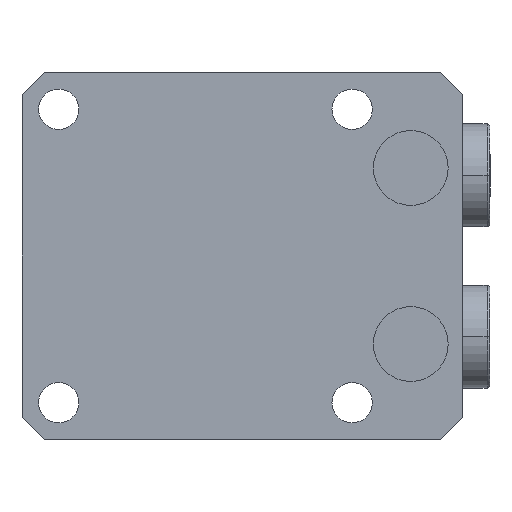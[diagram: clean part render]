
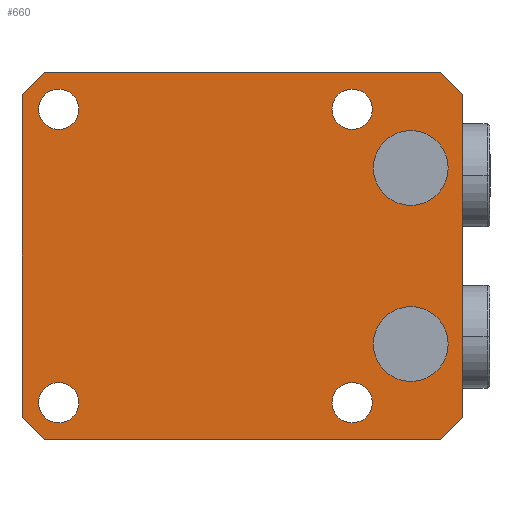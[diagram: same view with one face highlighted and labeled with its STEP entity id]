
A CAD part, front view. The second image highlights one B-rep face of the part: STEP entity #660.
In plain terms, the highlighted planar face has unit normal (0, -1, 0).
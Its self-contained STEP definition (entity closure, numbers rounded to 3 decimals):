
#258=PLANE('',#4846);
#314=FACE_BOUND('',#1165,.T.);
#315=FACE_BOUND('',#1166,.T.);
#316=FACE_BOUND('',#1167,.T.);
#317=FACE_BOUND('',#1168,.T.);
#318=FACE_BOUND('',#1169,.T.);
#319=FACE_BOUND('',#1170,.T.);
#320=FACE_BOUND('',#1171,.T.);
#660=ADVANCED_FACE('',(#314,#315,#316,#317,#318,#319,#320),#258,.T.);
#1165=EDGE_LOOP('',(#2916,#2917));
#1166=EDGE_LOOP('',(#2918,#2919));
#1167=EDGE_LOOP('',(#2920,#2921));
#1168=EDGE_LOOP('',(#2922,#2923));
#1169=EDGE_LOOP('',(#2924,#2925));
#1170=EDGE_LOOP('',(#2926,#2927));
#1171=EDGE_LOOP('',(#2928,#2929,#2930,#2931,#2932,#2933,#2934,#2935));
#1500=LINE('',#7649,#1829);
#1507=LINE('',#7663,#1836);
#1515=LINE('',#7689,#1844);
#1520=LINE('',#7707,#1849);
#1527=LINE('',#7731,#1856);
#1528=LINE('',#7732,#1857);
#1529=LINE('',#7733,#1858);
#1530=LINE('',#7734,#1859);
#1829=VECTOR('',#6052,1.);
#1836=VECTOR('',#6061,1.);
#1844=VECTOR('',#6071,1.);
#1849=VECTOR('',#6078,1.);
#1856=VECTOR('',#6091,1.);
#1857=VECTOR('',#6092,1.);
#1858=VECTOR('',#6093,1.);
#1859=VECTOR('',#6094,1.);
#2916=ORIENTED_EDGE('',*,*,#4108,.F.);
#2917=ORIENTED_EDGE('',*,*,#3967,.F.);
#2918=ORIENTED_EDGE('',*,*,#4109,.F.);
#2919=ORIENTED_EDGE('',*,*,#3971,.F.);
#2920=ORIENTED_EDGE('',*,*,#4074,.T.);
#2921=ORIENTED_EDGE('',*,*,#4017,.T.);
#2922=ORIENTED_EDGE('',*,*,#4070,.T.);
#2923=ORIENTED_EDGE('',*,*,#4025,.T.);
#2924=ORIENTED_EDGE('',*,*,#4068,.T.);
#2925=ORIENTED_EDGE('',*,*,#4029,.T.);
#2926=ORIENTED_EDGE('',*,*,#4072,.T.);
#2927=ORIENTED_EDGE('',*,*,#4021,.T.);
#2928=ORIENTED_EDGE('',*,*,#4099,.F.);
#2929=ORIENTED_EDGE('',*,*,#4110,.T.);
#2930=ORIENTED_EDGE('',*,*,#4076,.F.);
#2931=ORIENTED_EDGE('',*,*,#4111,.T.);
#2932=ORIENTED_EDGE('',*,*,#4083,.F.);
#2933=ORIENTED_EDGE('',*,*,#4112,.T.);
#2934=ORIENTED_EDGE('',*,*,#4093,.F.);
#2935=ORIENTED_EDGE('',*,*,#4113,.T.);
#3409=VERTEX_POINT('',#7222);
#3410=VERTEX_POINT('',#7224);
#3413=VERTEX_POINT('',#7231);
#3414=VERTEX_POINT('',#7233);
#3455=VERTEX_POINT('',#7395);
#3456=VERTEX_POINT('',#7396);
#3459=VERTEX_POINT('',#7404);
#3460=VERTEX_POINT('',#7405);
#3463=VERTEX_POINT('',#7413);
#3464=VERTEX_POINT('',#7414);
#3467=VERTEX_POINT('',#7422);
#3468=VERTEX_POINT('',#7423);
#3495=VERTEX_POINT('',#7650);
#3496=VERTEX_POINT('',#7651);
#3501=VERTEX_POINT('',#7664);
#3502=VERTEX_POINT('',#7665);
#3510=VERTEX_POINT('',#7690);
#3511=VERTEX_POINT('',#7691);
#3516=VERTEX_POINT('',#7706);
#3517=VERTEX_POINT('',#7708);
#3967=EDGE_CURVE('',#3409,#3410,#4351,.T.);
#3971=EDGE_CURVE('',#3413,#3414,#4353,.T.);
#4017=EDGE_CURVE('',#3455,#3456,#4368,.T.);
#4021=EDGE_CURVE('',#3459,#3460,#4370,.T.);
#4025=EDGE_CURVE('',#3463,#3464,#4372,.T.);
#4029=EDGE_CURVE('',#3467,#3468,#4374,.T.);
#4068=EDGE_CURVE('',#3468,#3467,#4382,.T.);
#4070=EDGE_CURVE('',#3464,#3463,#4384,.T.);
#4072=EDGE_CURVE('',#3460,#3459,#4386,.T.);
#4074=EDGE_CURVE('',#3456,#3455,#4388,.T.);
#4076=EDGE_CURVE('',#3495,#3496,#1500,.T.);
#4083=EDGE_CURVE('',#3501,#3502,#1507,.T.);
#4093=EDGE_CURVE('',#3510,#3511,#1515,.T.);
#4099=EDGE_CURVE('',#3516,#3517,#1520,.T.);
#4108=EDGE_CURVE('',#3410,#3409,#4390,.T.);
#4109=EDGE_CURVE('',#3414,#3413,#4391,.T.);
#4110=EDGE_CURVE('',#3516,#3496,#1527,.T.);
#4111=EDGE_CURVE('',#3495,#3502,#1528,.T.);
#4112=EDGE_CURVE('',#3501,#3511,#1529,.T.);
#4113=EDGE_CURVE('',#3510,#3517,#1530,.T.);
#4351=CIRCLE('',#4774,5.1);
#4353=CIRCLE('',#4777,5.1);
#4368=CIRCLE('',#4803,2.75);
#4370=CIRCLE('',#4806,2.75);
#4372=CIRCLE('',#4809,2.75);
#4374=CIRCLE('',#4812,2.75);
#4382=CIRCLE('',#4828,2.75);
#4384=CIRCLE('',#4831,2.75);
#4386=CIRCLE('',#4834,2.75);
#4388=CIRCLE('',#4837,2.75);
#4390=CIRCLE('',#4844,5.1);
#4391=CIRCLE('',#4845,5.1);
#4774=AXIS2_PLACEMENT_3D('',#7223,#5870,#5871);
#4777=AXIS2_PLACEMENT_3D('',#7232,#5878,#5879);
#4803=AXIS2_PLACEMENT_3D('',#7394,#5950,#5951);
#4806=AXIS2_PLACEMENT_3D('',#7403,#5958,#5959);
#4809=AXIS2_PLACEMENT_3D('',#7412,#5966,#5967);
#4812=AXIS2_PLACEMENT_3D('',#7421,#5974,#5975);
#4828=AXIS2_PLACEMENT_3D('',#7637,#6028,#6029);
#4831=AXIS2_PLACEMENT_3D('',#7640,#6034,#6035);
#4834=AXIS2_PLACEMENT_3D('',#7643,#6040,#6041);
#4837=AXIS2_PLACEMENT_3D('',#7646,#6046,#6047);
#4844=AXIS2_PLACEMENT_3D('',#7729,#6087,#6088);
#4845=AXIS2_PLACEMENT_3D('',#7730,#6089,#6090);
#4846=AXIS2_PLACEMENT_3D('',#7735,#6095,#6096);
#5870=DIRECTION('',(0.,-1.,0.));
#5871=DIRECTION('',(0.,0.,-1.));
#5878=DIRECTION('',(0.,-1.,0.));
#5879=DIRECTION('',(0.,0.,-1.));
#5950=DIRECTION('',(0.,1.,0.));
#5951=DIRECTION('',(0.,0.,-1.));
#5958=DIRECTION('',(0.,1.,0.));
#5959=DIRECTION('',(0.,0.,-1.));
#5966=DIRECTION('',(0.,1.,0.));
#5967=DIRECTION('',(0.,0.,-1.));
#5974=DIRECTION('',(0.,1.,0.));
#5975=DIRECTION('',(0.,0.,-1.));
#6028=DIRECTION('',(0.,1.,0.));
#6029=DIRECTION('',(0.,0.,-1.));
#6034=DIRECTION('',(0.,1.,0.));
#6035=DIRECTION('',(0.,0.,-1.));
#6040=DIRECTION('',(0.,1.,0.));
#6041=DIRECTION('',(0.,0.,-1.));
#6046=DIRECTION('',(0.,1.,0.));
#6047=DIRECTION('',(0.,0.,-1.));
#6052=DIRECTION('',(0.,0.,-1.));
#6061=DIRECTION('',(1.,0.,0.));
#6071=DIRECTION('',(0.,0.,1.));
#6078=DIRECTION('',(-1.,0.,0.));
#6087=DIRECTION('',(0.,-1.,0.));
#6088=DIRECTION('',(0.,0.,-1.));
#6089=DIRECTION('',(0.,-1.,0.));
#6090=DIRECTION('',(0.,0.,-1.));
#6091=DIRECTION('',(0.707,0.,0.707));
#6092=DIRECTION('',(-0.707,0.,0.707));
#6093=DIRECTION('',(-0.707,0.,-0.707));
#6094=DIRECTION('',(0.707,0.,-0.707));
#6095=DIRECTION('',(0.,-1.,0.));
#6096=DIRECTION('',(0.,0.,-1.));
#7222=CARTESIAN_POINT('',(-28.,-66.,-6.9));
#7223=CARTESIAN_POINT('',(-28.,-66.,-12.));
#7224=CARTESIAN_POINT('',(-28.,-66.,-17.1));
#7231=CARTESIAN_POINT('',(-28.,-66.,17.1));
#7232=CARTESIAN_POINT('',(-28.,-66.,12.));
#7233=CARTESIAN_POINT('',(-28.,-66.,6.9));
#7394=CARTESIAN_POINT('',(-20.,-66.,-20.));
#7395=CARTESIAN_POINT('',(-20.,-66.,-22.75));
#7396=CARTESIAN_POINT('',(-20.,-66.,-17.25));
#7403=CARTESIAN_POINT('',(20.,-66.,20.));
#7404=CARTESIAN_POINT('',(20.,-66.,17.25));
#7405=CARTESIAN_POINT('',(20.,-66.,22.75));
#7412=CARTESIAN_POINT('',(-20.,-66.,20.));
#7413=CARTESIAN_POINT('',(-20.,-66.,17.25));
#7414=CARTESIAN_POINT('',(-20.,-66.,22.75));
#7421=CARTESIAN_POINT('',(20.,-66.,-20.));
#7422=CARTESIAN_POINT('',(20.,-66.,-22.75));
#7423=CARTESIAN_POINT('',(20.,-66.,-17.25));
#7637=CARTESIAN_POINT('',(20.,-66.,-20.));
#7640=CARTESIAN_POINT('',(-20.,-66.,20.));
#7643=CARTESIAN_POINT('',(20.,-66.,20.));
#7646=CARTESIAN_POINT('',(-20.,-66.,-20.));
#7649=CARTESIAN_POINT('',(25.,-66.,-25.));
#7650=CARTESIAN_POINT('',(25.,-66.,22.));
#7651=CARTESIAN_POINT('',(25.,-66.,-22.));
#7663=CARTESIAN_POINT('',(25.,-66.,25.));
#7664=CARTESIAN_POINT('',(-32.,-66.,25.));
#7665=CARTESIAN_POINT('',(22.,-66.,25.));
#7689=CARTESIAN_POINT('',(-35.,-66.,25.));
#7690=CARTESIAN_POINT('',(-35.,-66.,-22.));
#7691=CARTESIAN_POINT('',(-35.,-66.,22.));
#7706=CARTESIAN_POINT('',(22.,-66.,-25.));
#7707=CARTESIAN_POINT('',(25.,-66.,-25.));
#7708=CARTESIAN_POINT('',(-32.,-66.,-25.));
#7729=CARTESIAN_POINT('',(-28.,-66.,-12.));
#7730=CARTESIAN_POINT('',(-28.,-66.,12.));
#7731=CARTESIAN_POINT('',(48.5,-66.,1.5));
#7732=CARTESIAN_POINT('',(23.5,-66.,23.5));
#7733=CARTESIAN_POINT('',(-3.5,-66.,53.5));
#7734=CARTESIAN_POINT('',(-28.5,-66.,-28.5));
#7735=CARTESIAN_POINT('',(25.,-66.,25.));
